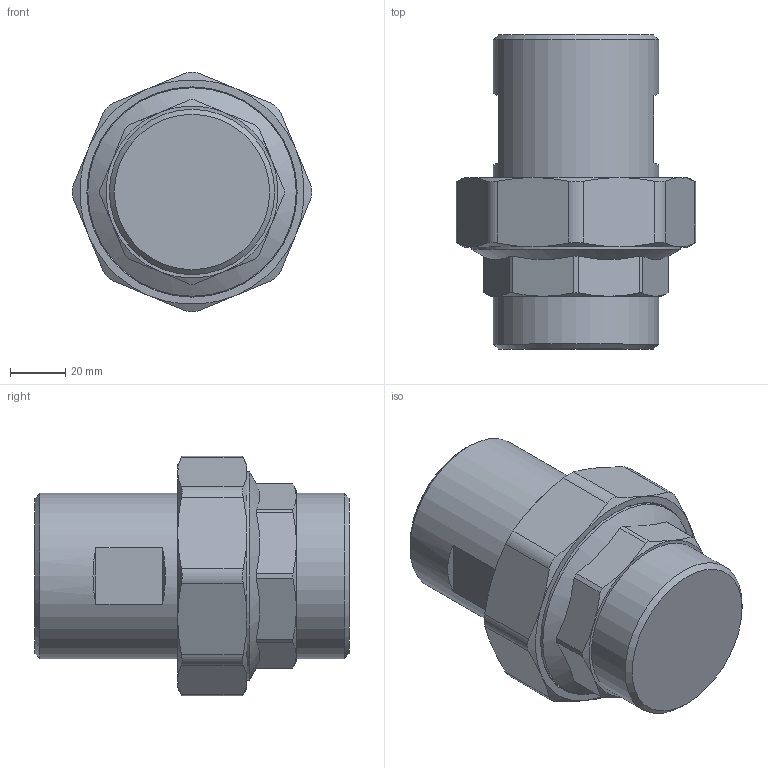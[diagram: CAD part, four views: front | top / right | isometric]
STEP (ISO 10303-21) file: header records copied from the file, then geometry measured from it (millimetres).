
FILE_DESCRIPTION(('STEP AP203'), '1');
FILE_NAME('覆.302612.030.000 捘 - VTr.728.N.0009', '2024-07-19T07:32:25', ('Boss'), (''), 'C3D Converter', 'C3D Toolkit', '');
FILE_SCHEMA(('CONFIG_CONTROL_DESIGN'));
Length unit declared in the file: millimetre
Products named in the file (1): ВР.302612.030.000 СБ
Bounding box: 86.52 x 113.33 x 86.52 mm (x, y, z)
Volume: 389688.6 mm3; surface area: 34954 mm2
Topology: 1 solids, 1 shells, 77 faces, 178 edges, 109 vertices
Faces by surface type: cone 29, plane 28, cylinder 20
Full cylindrical faces by diameter (mm): 59.614 x2, 60.5 x1, 75.184 x1
Entity records: 4144 total; most frequent: CARTESIAN_POINT 2513, ORIENTED_EDGE 340, DIRECTION 303, EDGE_CURVE 170, AXIS2_PLACEMENT_3D 131, VERTEX_POINT 109, EDGE_LOOP 91, ADVANCED_FACE 77
